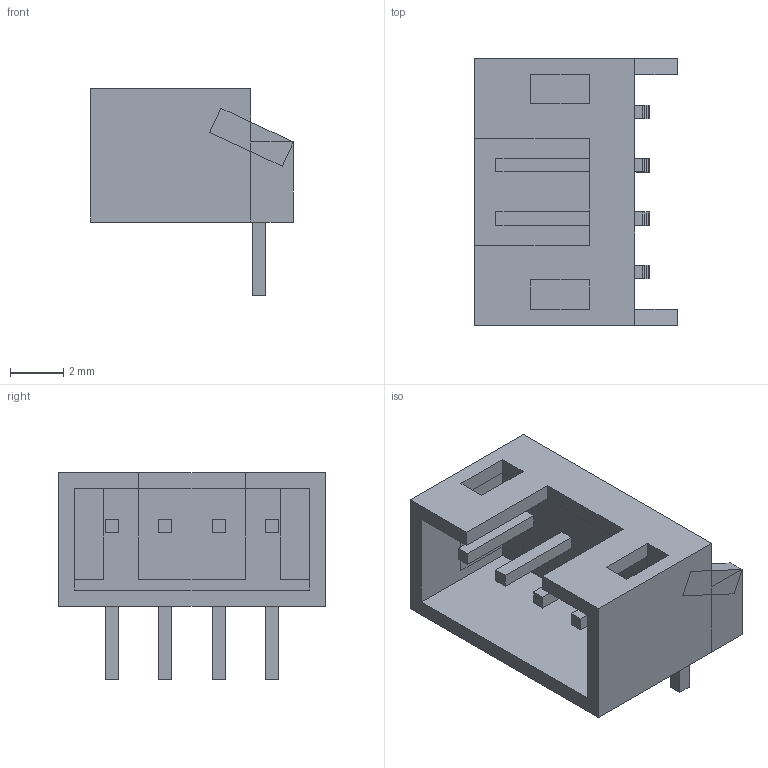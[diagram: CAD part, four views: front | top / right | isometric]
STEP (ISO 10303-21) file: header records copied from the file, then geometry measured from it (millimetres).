
FILE_DESCRIPTION(('FreeCAD Model'),'2;1');
FILE_NAME('Open CASCADE Shape Model','2021-06-28T18:58:59',('Author'),( ''),'Open CASCADE STEP processor 7.5','FreeCAD','Unknown');
FILE_SCHEMA(('AUTOMOTIVE_DESIGN { 1 0 10303 214 1 1 1 1 }'));
Length unit declared in the file: millimetre
Products named in the file (1): Group003
Bounding box: 7.6 x 10 x 7.75 mm (x, y, z)
Volume: 159 mm3; surface area: 458.2 mm2
Topology: 1 solids, 1 shells, 164 faces, 472 edges, 316 vertices
Faces by surface type: plane 164
Entity records: 11447 total; most frequent: CARTESIAN_POINT 2025, DIRECTION 1618, LINE 1288, VECTOR 1288, ORIENTED_EDGE 944, PCURVE 944, DEFINITIONAL_REPRESENTATION 944, EDGE_CURVE 472
